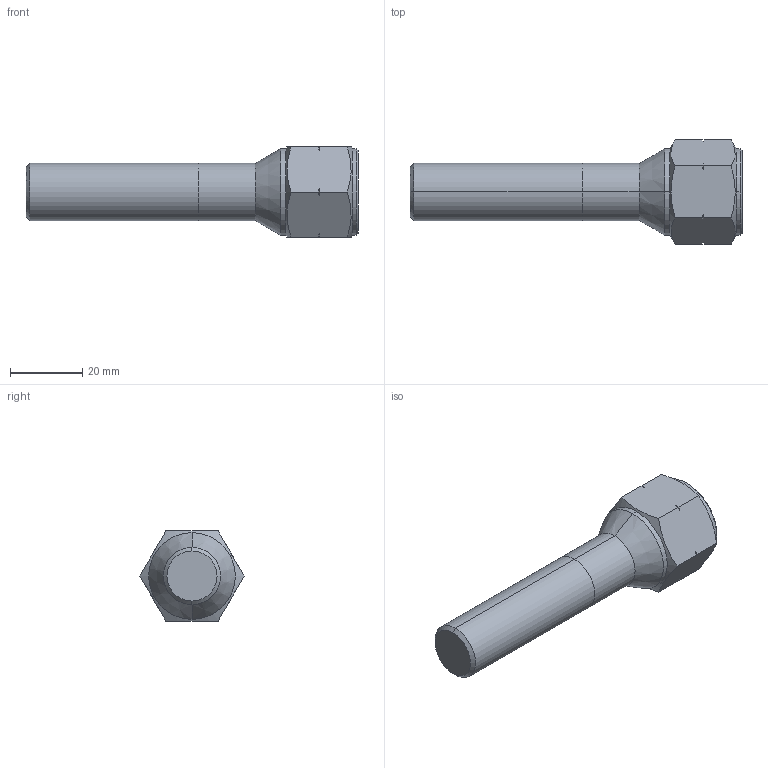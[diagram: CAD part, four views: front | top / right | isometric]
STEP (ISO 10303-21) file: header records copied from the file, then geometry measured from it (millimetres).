
FILE_DESCRIPTION (( 'STEP AP214' ), '1' );
FILE_NAME ('CAD-FS-B.STEP', '2018-09-12T14:34:18', ( 'Ben hiron-jones' ), ( 'Microsoft' ), 'SwSTEP 2.0', 'SolidWorks 2018', '' );
FILE_SCHEMA (( 'AUTOMOTIVE_DESIGN' ));
Length unit declared in the file: millimetre
Products named in the file (1): CAD-FS-B
Bounding box: 92 x 28.87 x 25 mm (x, y, z)
Volume: 22312.6 mm3; surface area: 6897.6 mm2
Topology: 1 solids, 1 shells, 44 faces, 106 edges, 66 vertices
Faces by surface type: cone 26, plane 10, cylinder 8
Entity records: 1465 total; most frequent: CARTESIAN_POINT 425, ORIENTED_EDGE 212, DIRECTION 188, EDGE_CURVE 106, AXIS2_PLACEMENT_3D 77, VERTEX_POINT 66, EDGE_LOOP 46, FACE_OUTER_BOUND 44
